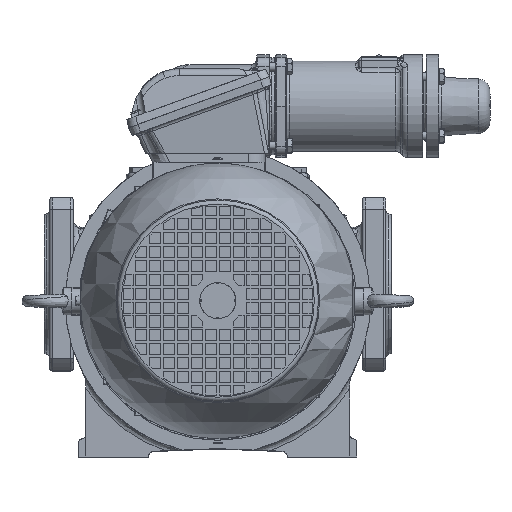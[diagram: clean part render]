
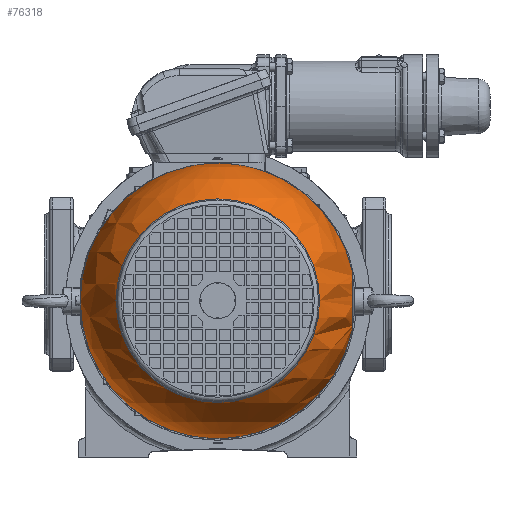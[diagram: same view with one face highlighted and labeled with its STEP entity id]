
A CAD part, top view. The second image highlights one B-rep face of the part: STEP entity #76318.
In plain terms, the highlighted spherical face has radius 99.054 mm.
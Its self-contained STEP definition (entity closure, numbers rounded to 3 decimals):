
#19=SPHERICAL_SURFACE('',#81319,99.054);
#8318=FACE_BOUND('',#16995,.T.);
#12423=FACE_OUTER_BOUND('',#16994,.T.);
#16994=EDGE_LOOP('',(#60132,#60133,#60134,#60135));
#16995=EDGE_LOOP('',(#60136,#60137));
#31500=CIRCLE('',#79989,99.05);
#31502=CIRCLE('',#79991,99.05);
#31503=CIRCLE('',#79992,99.05);
#31657=CIRCLE('',#80715,21.153);
#31678=CIRCLE('',#81317,73.309);
#31679=CIRCLE('',#81318,73.309);
#34897=VERTEX_POINT('',#120280);
#34898=VERTEX_POINT('',#120281);
#34901=VERTEX_POINT('',#120290);
#34902=VERTEX_POINT('',#120295);
#36715=VERTEX_POINT('',#127315);
#36716=VERTEX_POINT('',#127317);
#42350=EDGE_CURVE('',#34897,#34898,#31500,.T.);
#42354=EDGE_CURVE('',#34902,#34901,#31502,.T.);
#42355=EDGE_CURVE('',#34898,#34902,#31503,.T.);
#44004=EDGE_CURVE('',#34901,#34897,#31657,.T.);
#45163=EDGE_CURVE('',#36715,#36716,#31678,.T.);
#45164=EDGE_CURVE('',#36716,#36715,#31679,.T.);
#60132=ORIENTED_EDGE('',*,*,#42350,.T.);
#60133=ORIENTED_EDGE('',*,*,#42355,.T.);
#60134=ORIENTED_EDGE('',*,*,#42354,.T.);
#60135=ORIENTED_EDGE('',*,*,#44004,.T.);
#60136=ORIENTED_EDGE('',*,*,#45164,.F.);
#60137=ORIENTED_EDGE('',*,*,#45163,.F.);
#76318=ADVANCED_FACE('',(#12423,#8318),#19,.T.);
#79989=AXIS2_PLACEMENT_3D('',#120282,#88056,#88057);
#79991=AXIS2_PLACEMENT_3D('',#120296,#88060,#88061);
#79992=AXIS2_PLACEMENT_3D('',#120297,#88062,#88063);
#80715=AXIS2_PLACEMENT_3D('',#124950,#90606,#90607);
#81317=AXIS2_PLACEMENT_3D('',#127318,#92944,#92945);
#81318=AXIS2_PLACEMENT_3D('',#127319,#92946,#92947);
#81319=AXIS2_PLACEMENT_3D('',#127320,#92948,#92949);
#88056=DIRECTION('center_axis',(0.,0.,
1.));
#88057=DIRECTION('ref_axis',(0.,1.,0.));
#88060=DIRECTION('center_axis',(0.,0.,
1.));
#88061=DIRECTION('ref_axis',(0.,1.,0.));
#88062=DIRECTION('center_axis',(0.,0.,
1.));
#88063=DIRECTION('ref_axis',(0.,1.,0.));
#90606=DIRECTION('center_axis',(-1.,0.,0.));
#90607=DIRECTION('ref_axis',(0.,1.,0.));
#92944=DIRECTION('center_axis',(0.,0.,
1.));
#92945=DIRECTION('ref_axis',(0.,1.,0.));
#92946=DIRECTION('center_axis',(0.,0.,
1.));
#92947=DIRECTION('ref_axis',(0.,1.,0.));
#92948=DIRECTION('center_axis',(0.,-1.,0.));
#92949=DIRECTION('ref_axis',(-1.,0.,0.));
#120280=CARTESIAN_POINT('',(96.769,21.135,313.764));
#120281=CARTESIAN_POINT('',(0.,99.05,313.764));
#120282=CARTESIAN_POINT('Origin',(0.,0.,
313.764));
#120290=CARTESIAN_POINT('',(96.769,-21.135,313.764));
#120295=CARTESIAN_POINT('',(0.,-99.05,313.764));
#120296=CARTESIAN_POINT('Origin',(0.,0.,
313.764));
#120297=CARTESIAN_POINT('Origin',(0.,0.,
313.764));
#124950=CARTESIAN_POINT('Origin',(96.769,0.,312.9));
#127315=CARTESIAN_POINT('',(0.,-73.309,379.515));
#127317=CARTESIAN_POINT('',(0.,73.309,379.515));
#127318=CARTESIAN_POINT('Origin',(0.,0.,
379.515));
#127319=CARTESIAN_POINT('Origin',(0.,0.,
379.515));
#127320=CARTESIAN_POINT('Origin',(0.,0.,
312.9));
